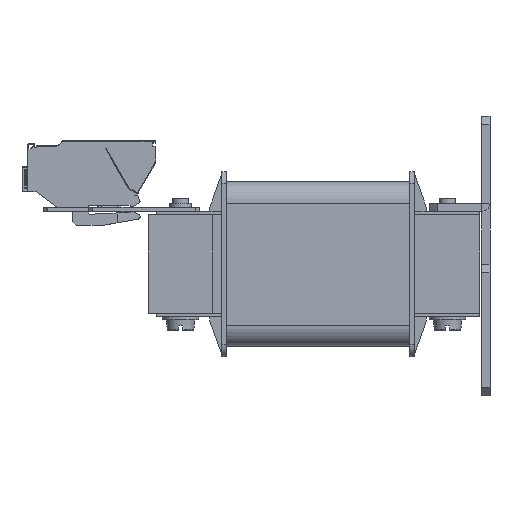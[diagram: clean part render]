
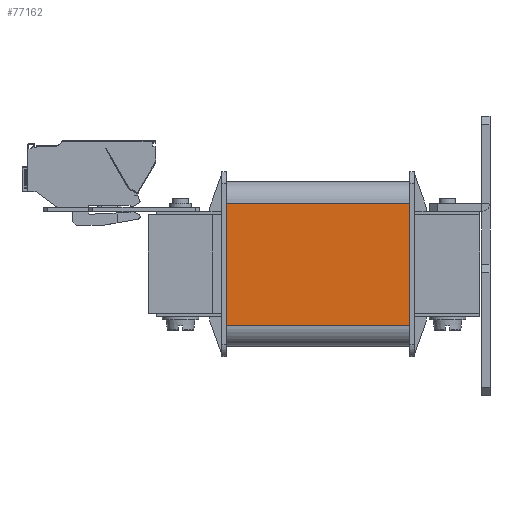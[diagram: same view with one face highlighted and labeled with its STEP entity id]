
A CAD part, left-side view. The second image highlights one B-rep face of the part: STEP entity #77162.
In plain terms, the highlighted planar face has unit normal (-1, 0, 0).
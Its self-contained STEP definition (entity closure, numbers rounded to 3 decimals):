
#156 = EDGE_CURVE ( 'NONE', #79254, #54633, #25412, .T. ) ;
#4851 = CARTESIAN_POINT ( 'NONE',  ( -47.6, 45.3, 15.1 ) ) ;
#5552 = VECTOR ( 'NONE', #45276, 1000. ) ;
#6701 = CARTESIAN_POINT ( 'NONE',  ( -47.6, 0., -15.1 ) ) ;
#6718 = CARTESIAN_POINT ( 'NONE',  ( -47.6, 0., 15.1 ) ) ;
#8053 = LINE ( 'NONE', #36678, #50717 ) ;
#9318 = EDGE_LOOP ( 'NONE', ( #60861, #35358, #23269, #74355 ) ) ;
#9523 = VECTOR ( 'NONE', #12889, 1000. ) ;
#11554 = PLANE ( 'NONE',  #83661 ) ;
#12889 = DIRECTION ( 'NONE',  ( 0., -1., 0. ) ) ;
#16118 = VERTEX_POINT ( 'NONE', #61009 ) ;
#18223 = DIRECTION ( 'NONE',  ( 0., 0., -1. ) ) ;
#23269 = ORIENTED_EDGE ( 'NONE', *, *, #53972, .F. ) ;
#25412 = LINE ( 'NONE', #41814, #58728 ) ;
#26399 = CARTESIAN_POINT ( 'NONE',  ( -47.6, 45.3, 15.1 ) ) ;
#35358 = ORIENTED_EDGE ( 'NONE', *, *, #156, .F. ) ;
#36678 = CARTESIAN_POINT ( 'NONE',  ( -47.6, 0., 15.1 ) ) ;
#38079 = DIRECTION ( 'NONE',  ( 1., 0., 0. ) ) ;
#38470 = FACE_OUTER_BOUND ( 'NONE', #9318, .T. ) ;
#40800 = LINE ( 'NONE', #46059, #9523 ) ;
#41814 = CARTESIAN_POINT ( 'NONE',  ( -47.6, 45.3, 15.1 ) ) ;
#42390 = EDGE_CURVE ( 'NONE', #48276, #54633, #8053, .T. ) ;
#45276 = DIRECTION ( 'NONE',  ( 0., 0., 1. ) ) ;
#46059 = CARTESIAN_POINT ( 'NONE',  ( -47.6, 45.3, -15.1 ) ) ;
#48276 = VERTEX_POINT ( 'NONE', #6701 ) ;
#50717 = VECTOR ( 'NONE', #56745, 1000. ) ;
#53972 = EDGE_CURVE ( 'NONE', #16118, #79254, #58687, .T. ) ;
#54633 = VERTEX_POINT ( 'NONE', #6718 ) ;
#55188 = DIRECTION ( 'NONE',  ( 0., -1., 0. ) ) ;
#56745 = DIRECTION ( 'NONE',  ( 0., 0., 1. ) ) ;
#58687 = LINE ( 'NONE', #78606, #5552 ) ;
#58728 = VECTOR ( 'NONE', #55188, 1000. ) ;
#60861 = ORIENTED_EDGE ( 'NONE', *, *, #42390, .T. ) ;
#61009 = CARTESIAN_POINT ( 'NONE',  ( -47.6, 45.3, -15.1 ) ) ;
#71878 = EDGE_CURVE ( 'NONE', #16118, #48276, #40800, .T. ) ;
#74355 = ORIENTED_EDGE ( 'NONE', *, *, #71878, .T. ) ;
#77162 = ADVANCED_FACE ( 'NONE', ( #38470 ), #11554, .F. ) ;
#78606 = CARTESIAN_POINT ( 'NONE',  ( -47.6, 45.3, 15.1 ) ) ;
#79254 = VERTEX_POINT ( 'NONE', #26399 ) ;
#83661 = AXIS2_PLACEMENT_3D ( 'NONE', #4851, #38079, #18223 ) ;
